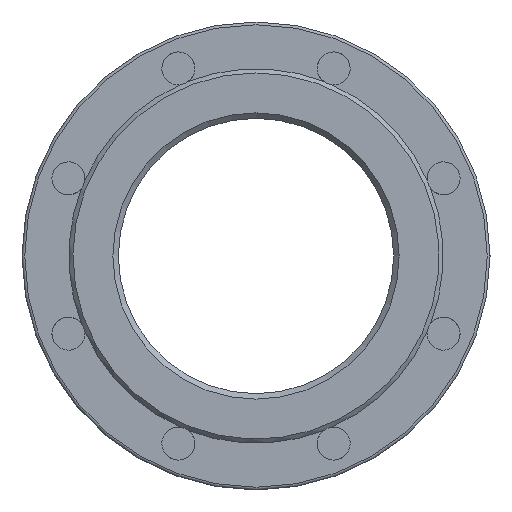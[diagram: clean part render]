
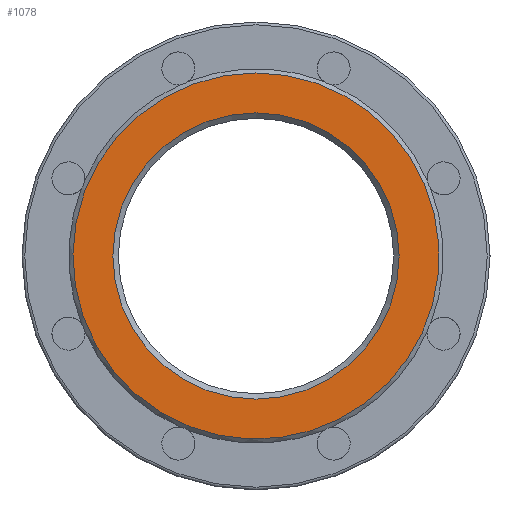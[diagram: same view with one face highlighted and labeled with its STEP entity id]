
A CAD part, left-side view. The second image highlights one B-rep face of the part: STEP entity #1078.
In plain terms, the highlighted planar face has unit normal (-1, 0, 0).
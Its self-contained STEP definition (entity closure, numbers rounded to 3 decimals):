
#104 = AXIS2_PLACEMENT_3D ( 'NONE', #966, #965, #962 ) ;
#147 = EDGE_CURVE ( 'NONE', #3484, #3484, #3158, .T. ) ;
#201 = EDGE_CURVE ( 'NONE', #3501, #3501, #3201, .T. ) ;
#524 = CARTESIAN_POINT ( 'NONE',  ( -250., 0., 0. ) ) ;
#525 = DIRECTION ( 'NONE',  ( 1., 0., 0. ) ) ;
#526 = DIRECTION ( 'NONE',  ( 0., 0., -1. ) ) ;
#962 = DIRECTION ( 'NONE',  ( 0., 0., 1. ) ) ;
#965 = DIRECTION ( 'NONE',  ( -1., 0., 0. ) ) ;
#966 = CARTESIAN_POINT ( 'NONE',  ( -250., 0., 0. ) ) ;
#1078 = ADVANCED_FACE ( 'NONE', ( #3456, #3463 ), #1209, .F. ) ;
#1209 = PLANE ( 'NONE',  #1575 ) ;
#1215 = CARTESIAN_POINT ( 'NONE',  ( -250., 100., 0. ) ) ;
#1220 = DIRECTION ( 'NONE',  ( 1., 0., 0. ) ) ;
#1221 = DIRECTION ( 'NONE',  ( 0., 0., -1. ) ) ;
#1345 = CARTESIAN_POINT ( 'NONE',  ( -250., 0., 133. ) ) ;
#1362 = CARTESIAN_POINT ( 'NONE',  ( -250., 0., -104. ) ) ;
#1427 = AXIS2_PLACEMENT_3D ( 'NONE', #524, #525, #526 ) ;
#1575 = AXIS2_PLACEMENT_3D ( 'NONE', #1215, #1220, #1221 ) ;
#2545 = EDGE_LOOP ( 'NONE', ( #2878 ) ) ;
#2579 = EDGE_LOOP ( 'NONE', ( #2888 ) ) ;
#2878 = ORIENTED_EDGE ( 'NONE', *, *, #201, .T. ) ;
#2888 = ORIENTED_EDGE ( 'NONE', *, *, #147, .T. ) ;
#3158 = CIRCLE ( 'NONE', #104, 133. ) ;
#3201 = CIRCLE ( 'NONE', #1427, 104. ) ;
#3456 = FACE_OUTER_BOUND ( 'NONE', #2579, .T. ) ;
#3463 = FACE_BOUND ( 'NONE', #2545, .T. ) ;
#3484 = VERTEX_POINT ( 'NONE', #1345 ) ;
#3501 = VERTEX_POINT ( 'NONE', #1362 ) ;
